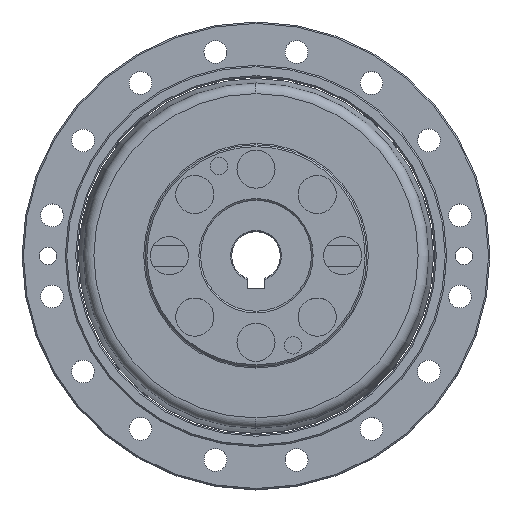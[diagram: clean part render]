
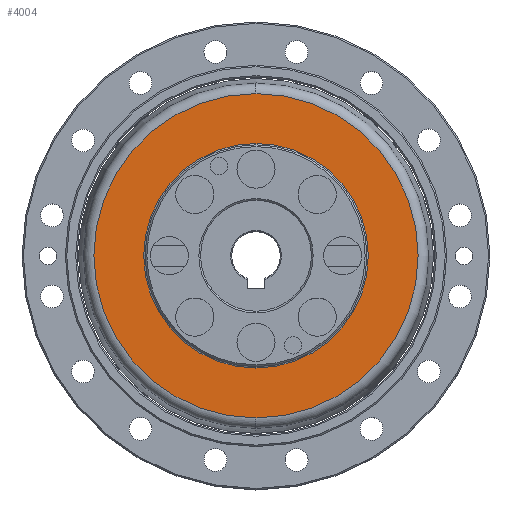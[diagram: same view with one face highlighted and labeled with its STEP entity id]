
A CAD part, top view. The second image highlights one B-rep face of the part: STEP entity #4004.
In plain terms, the highlighted planar face has unit normal (0, 0, 1).
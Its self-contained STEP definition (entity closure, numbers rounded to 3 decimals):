
#688 = ORIENTED_EDGE ( 'NONE', *, *, #12907, .F. ) ;
#796 = DIRECTION ( 'NONE',  ( 0., -1., 0. ) ) ;
#938 = DIRECTION ( 'NONE',  ( 0., 1., 0. ) ) ;
#1184 = CARTESIAN_POINT ( 'NONE',  ( 0., 46.782, 20.002 ) ) ;
#1415 = ORIENTED_EDGE ( 'NONE', *, *, #5690, .F. ) ;
#1744 = CIRCLE ( 'NONE', #9278, 46.782 ) ;
#2130 = CARTESIAN_POINT ( 'NONE',  ( 0., 0., 20.002 ) ) ;
#2170 = AXIS2_PLACEMENT_3D ( 'NONE', #2130, #9110, #3150 ) ;
#2229 = CIRCLE ( 'NONE', #2170, 32.4 ) ;
#3150 = DIRECTION ( 'NONE',  ( 0., -1., 0. ) ) ;
#4004 = ADVANCED_FACE ( 'NONE', ( #4921, #9897 ), #12886, .F. ) ;
#4159 = DIRECTION ( 'NONE',  ( 0., 0., 1. ) ) ;
#4382 = EDGE_LOOP ( 'NONE', ( #7281, #11066 ) ) ;
#4921 = FACE_BOUND ( 'NONE', #6905, .T. ) ;
#5041 = AXIS2_PLACEMENT_3D ( 'NONE', #11315, #5362, #12310 ) ;
#5362 = DIRECTION ( 'NONE',  ( 0., 0., 1. ) ) ;
#5690 = EDGE_CURVE ( 'NONE', #6092, #7650, #2229, .T. ) ;
#5943 = CARTESIAN_POINT ( 'NONE',  ( 32.4, 0., 20.002 ) ) ;
#5979 = EDGE_CURVE ( 'NONE', #7990, #8733, #1744, .T. ) ;
#6092 = VERTEX_POINT ( 'NONE', #12131 ) ;
#6357 = CIRCLE ( 'NONE', #5041, 32.4 ) ;
#6810 = DIRECTION ( 'NONE',  ( 0., 0., 1. ) ) ;
#6905 = EDGE_LOOP ( 'NONE', ( #1415, #688 ) ) ;
#6956 = DIRECTION ( 'NONE',  ( 0., 0., -1. ) ) ;
#7281 = ORIENTED_EDGE ( 'NONE', *, *, #5979, .T. ) ;
#7343 = CARTESIAN_POINT ( 'NONE',  ( 0., -46.782, 20.002 ) ) ;
#7543 = AXIS2_PLACEMENT_3D ( 'NONE', #5943, #6956, #938 ) ;
#7650 = VERTEX_POINT ( 'NONE', #12511 ) ;
#7990 = VERTEX_POINT ( 'NONE', #7343 ) ;
#8218 = CIRCLE ( 'NONE', #11189, 46.782 ) ;
#8733 = VERTEX_POINT ( 'NONE', #1184 ) ;
#9110 = DIRECTION ( 'NONE',  ( 0., 0., 1. ) ) ;
#9278 = AXIS2_PLACEMENT_3D ( 'NONE', #12741, #6810, #796 ) ;
#9897 = FACE_OUTER_BOUND ( 'NONE', #4382, .T. ) ;
#10112 = CARTESIAN_POINT ( 'NONE',  ( 0., 0., 20.002 ) ) ;
#11066 = ORIENTED_EDGE ( 'NONE', *, *, #12208, .T. ) ;
#11125 = DIRECTION ( 'NONE',  ( 0., -1., 0. ) ) ;
#11189 = AXIS2_PLACEMENT_3D ( 'NONE', #10112, #4159, #11125 ) ;
#11315 = CARTESIAN_POINT ( 'NONE',  ( 0., 0., 20.002 ) ) ;
#12131 = CARTESIAN_POINT ( 'NONE',  ( 0., -32.4, 20.002 ) ) ;
#12208 = EDGE_CURVE ( 'NONE', #8733, #7990, #8218, .T. ) ;
#12310 = DIRECTION ( 'NONE',  ( 0., -1., 0. ) ) ;
#12511 = CARTESIAN_POINT ( 'NONE',  ( 0., 32.4, 20.002 ) ) ;
#12741 = CARTESIAN_POINT ( 'NONE',  ( 0., 0., 20.002 ) ) ;
#12886 = PLANE ( 'NONE',  #7543 ) ;
#12907 = EDGE_CURVE ( 'NONE', #7650, #6092, #6357, .T. ) ;
